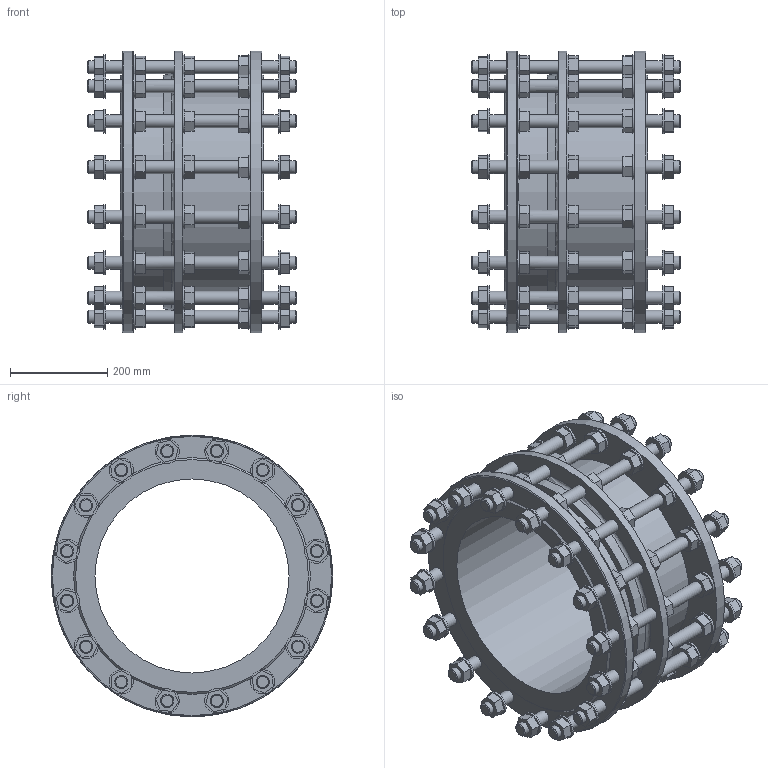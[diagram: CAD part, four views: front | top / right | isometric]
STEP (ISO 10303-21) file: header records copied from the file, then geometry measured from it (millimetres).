
FILE_DESCRIPTION (( 'STEP AP203' ), '1' );
FILE_NAME ('O_265_910_DN400_1XXXXX00_L=295_REV01.step', '2024-10-11T10:35:41', ( '' ), ( '' ), 'SwSTEP 2.0', 'SolidWorks 2022', '' );
FILE_SCHEMA (( 'CONFIG_CONTROL_DESIGN' ));
Length unit declared in the file: millimetre
Products named in the file (1): O_265_910_DN400_1XXXXX00_L=295_REV01
Bounding box: 430 x 580 x 580 mm (x, y, z)
Volume: 19333803.2 mm3; surface area: 2186248.8 mm2
Topology: 1 solids, 1 shells, 974 faces, 2336 edges, 1583 vertices
Faces by surface type: plane 752, cylinder 184, cone 35, torus 3
Full cylindrical faces by diameter (mm): 27 x96, 50 x80, 400 x1, 418 x1, 450 x1, 580 x3
Entity records: 26496 total; most frequent: CARTESIAN_POINT 4816, DIRECTION 4345, ORIENTED_EDGE 3974, EDGE_CURVE 1987, LINE 1547, VECTOR 1547, EDGE_LOOP 1479, VERTEX_POINT 1454
